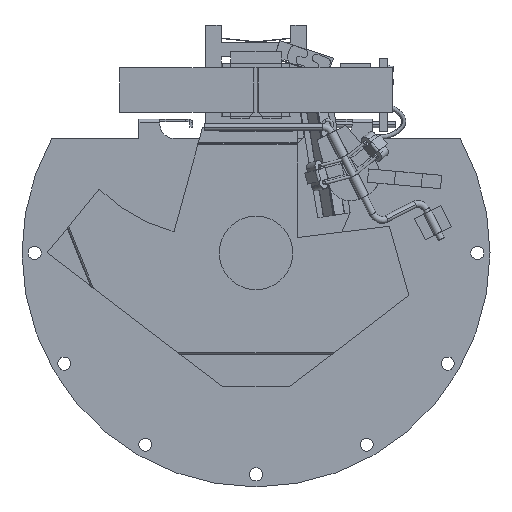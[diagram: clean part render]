
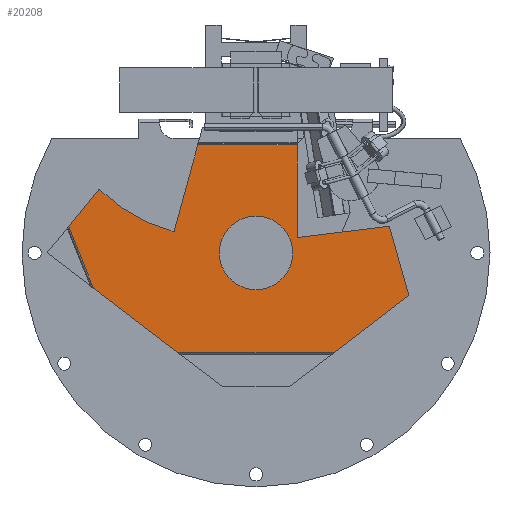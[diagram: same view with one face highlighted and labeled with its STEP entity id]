
A CAD part, top view. The second image highlights one B-rep face of the part: STEP entity #20208.
In plain terms, the highlighted planar face has unit normal (0, 0, 1).
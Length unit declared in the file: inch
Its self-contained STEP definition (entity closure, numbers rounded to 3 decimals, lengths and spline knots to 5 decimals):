
#4181 = CARTESIAN_POINT ( 'NONE',  ( 0.307, 0.808, 0.05 ) ) ;
#4970 = CARTESIAN_POINT ( 'NONE',  ( -0.275, 0., 0.05 ) ) ;
#5038 = CARTESIAN_POINT ( 'NONE',  ( 1.144, -0.3186, 0.05 ) ) ;
#5155 = LINE ( 'NONE', #5192, #5189 ) ;
#5160 = DIRECTION ( 'NONE',  ( 0., 1., 0. ) ) ;
#5161 = VECTOR ( 'NONE', #5160, 39.37008 ) ;
#5162 = CARTESIAN_POINT ( 'NONE',  ( 0.307, 1.396, 0.05 ) ) ;
#5163 = LINE ( 'NONE', #5162, #5161 ) ;
#5164 = CARTESIAN_POINT ( 'NONE',  ( 0.307, 0.115, 0.05 ) ) ;
#5165 = DIRECTION ( 'NONE',  ( -0.795, 0.606, 0. ) ) ;
#5166 = CIRCLE ( 'NONE', #5231, 0.275 ) ;
#5172 = VECTOR ( 'NONE', #5165, 39.37008 ) ;
#5173 = CARTESIAN_POINT ( 'NONE',  ( -1.562, 0., 0.05 ) ) ;
#5174 = LINE ( 'NONE', #5173, #5172 ) ;
#5179 = CARTESIAN_POINT ( 'NONE',  ( -1.21624, -0.26353, 0.05 ) ) ;
#5183 = CARTESIAN_POINT ( 'NONE',  ( 0., 0., 0.05 ) ) ;
#5186 = CARTESIAN_POINT ( 'NONE',  ( -0.58456, -0.745, 0.05 ) ) ;
#5189 = VECTOR ( 'NONE', #5191, 39.37008 ) ;
#5190 = DIRECTION ( 'NONE',  ( 0., 0., -1. ) ) ;
#5191 = DIRECTION ( 'NONE',  ( -0.795, -0.606, 0. ) ) ;
#5192 = CARTESIAN_POINT ( 'NONE',  ( 1.562, 0., 0.05 ) ) ;
#5193 = DIRECTION ( 'NONE',  ( -0.273, 0.962, 0. ) ) ;
#5194 = VECTOR ( 'NONE', #5193, 39.37008 ) ;
#5195 = CARTESIAN_POINT ( 'NONE',  ( 0.58784, 1.64241, 0.05 ) ) ;
#5196 = CARTESIAN_POINT ( 'NONE',  ( 0.58456, -0.745, 0.05 ) ) ;
#5200 = LINE ( 'NONE', #5195, #5194 ) ;
#5214 = FACE_OUTER_BOUND ( 'NONE', #20178, .T. ) ;
#5225 = DIRECTION ( 'NONE',  ( -1., 0., 0. ) ) ;
#5230 = FACE_BOUND ( 'NONE', #20301, .T. ) ;
#5231 = AXIS2_PLACEMENT_3D ( 'NONE', #5183, #5190, #5225 ) ;
#5232 = AXIS2_PLACEMENT_3D ( 'NONE', #5284, #5283, #5282 ) ;
#5237 = CARTESIAN_POINT ( 'NONE',  ( 0.275, 0., 0.05 ) ) ;
#5238 = CIRCLE ( 'NONE', #5232, 0.275 ) ;
#5245 = CARTESIAN_POINT ( 'NONE',  ( 0.997, 0.19972, 0.05 ) ) ;
#5247 = LINE ( 'NONE', #5254, #5256 ) ;
#5249 = DIRECTION ( 'NONE',  ( -1., 0., 0. ) ) ;
#5250 = DIRECTION ( 'NONE',  ( 0., 0., -1. ) ) ;
#5251 = CARTESIAN_POINT ( 'NONE',  ( -0.281, 1.396, 0.05 ) ) ;
#5252 = AXIS2_PLACEMENT_3D ( 'NONE', #5251, #5250, #5249 ) ;
#5253 = DIRECTION ( 'NONE',  ( -0.993, -0.122, 0. ) ) ;
#5254 = CARTESIAN_POINT ( 'NONE',  ( -0.11732, 0.0629, 0.05 ) ) ;
#5256 = VECTOR ( 'NONE', #5253, 39.37008 ) ;
#5258 = PLANE ( 'NONE',  #5252 ) ;
#5282 = DIRECTION ( 'NONE',  ( -1., 0., 0. ) ) ;
#5283 = DIRECTION ( 'NONE',  ( 0., 0., -1. ) ) ;
#5284 = CARTESIAN_POINT ( 'NONE',  ( 0., 0., 0.05 ) ) ;
#13634 = CARTESIAN_POINT ( 'NONE',  ( -1.17534, 0.47748, 0.05 ) ) ;
#13635 = LINE ( 'NONE', #13634, #13686 ) ;
#13646 = CARTESIAN_POINT ( 'NONE',  ( -0.613, 0.15774, 0.05 ) ) ;
#13647 = CARTESIAN_POINT ( 'NONE',  ( -0.43526, 0.808, 0.05 ) ) ;
#13677 = DIRECTION ( 'NONE',  ( 0.371, -0.929, 0. ) ) ;
#13678 = VECTOR ( 'NONE', #13677, 39.37008 ) ;
#13679 = CARTESIAN_POINT ( 'NONE',  ( -1.65941, 0.8449, 0.05 ) ) ;
#13680 = LINE ( 'NONE', #13679, #13678 ) ;
#13684 = CARTESIAN_POINT ( 'NONE',  ( -1.40106, 0.19874, 0.05 ) ) ;
#13685 = DIRECTION ( 'NONE',  ( 0.629, 0.777, 0. ) ) ;
#13686 = VECTOR ( 'NONE', #13685, 39.37008 ) ;
#19823 = VERTEX_POINT ( 'NONE', #4181 ) ;
#20017 = ORIENTED_EDGE ( 'NONE', *, *, #24918, .T. ) ;
#20091 = VERTEX_POINT ( 'NONE', #4970 ) ;
#20109 = VERTEX_POINT ( 'NONE', #5038 ) ;
#20168 = ORIENTED_EDGE ( 'NONE', *, *, #20171, .T. ) ;
#20170 = EDGE_CURVE ( 'NONE', #20194, #20173, #5174, .T. ) ;
#20171 = EDGE_CURVE ( 'NONE', #20180, #19823, #5163, .T. ) ;
#20173 = VERTEX_POINT ( 'NONE', #5179 ) ;
#20178 = EDGE_LOOP ( 'NONE', ( #20211, #20199, #20202, #20168, #20017, #24913, #24929, #24920, #24928, #24924, #24780 ) ) ;
#20180 = VERTEX_POINT ( 'NONE', #5164 ) ;
#20183 = EDGE_CURVE ( 'NONE', #20109, #20216, #5200, .T. ) ;
#20186 = EDGE_CURVE ( 'NONE', #20109, #20206, #5155, .T. ) ;
#20191 = EDGE_CURVE ( 'NONE', #20091, #20220, #5166, .T. ) ;
#20194 = VERTEX_POINT ( 'NONE', #5186 ) ;
#20199 = ORIENTED_EDGE ( 'NONE', *, *, #20183, .T. ) ;
#20202 = ORIENTED_EDGE ( 'NONE', *, *, #20214, .T. ) ;
#20206 = VERTEX_POINT ( 'NONE', #5196 ) ;
#20208 = ADVANCED_FACE ( 'NONE', ( #5230, #5214 ), #5258, .F. ) ;
#20211 = ORIENTED_EDGE ( 'NONE', *, *, #20186, .F. ) ;
#20213 = ORIENTED_EDGE ( 'NONE', *, *, #20222, .T. ) ;
#20214 = EDGE_CURVE ( 'NONE', #20216, #20180, #5247, .T. ) ;
#20216 = VERTEX_POINT ( 'NONE', #5245 ) ;
#20219 = ORIENTED_EDGE ( 'NONE', *, *, #20191, .T. ) ;
#20220 = VERTEX_POINT ( 'NONE', #5237 ) ;
#20222 = EDGE_CURVE ( 'NONE', #20220, #20091, #5238, .T. ) ;
#20301 = EDGE_LOOP ( 'NONE', ( #20213, #20219 ) ) ;
#24770 = VERTEX_POINT ( 'NONE', #13647 ) ;
#24772 = VERTEX_POINT ( 'NONE', #13646 ) ;
#24778 = EDGE_CURVE ( 'NONE', #24782, #24916, #13635, .T. ) ;
#24780 = ORIENTED_EDGE ( 'NONE', *, *, #24908, .T. ) ;
#24782 = VERTEX_POINT ( 'NONE', #13684 ) ;
#24784 = EDGE_CURVE ( 'NONE', #24782, #20173, #13680, .T. ) ;
#24908 = EDGE_CURVE ( 'NONE', #20194, #20206, #34280, .T. ) ;
#24913 = ORIENTED_EDGE ( 'NONE', *, *, #24914, .F. ) ;
#24914 = EDGE_CURVE ( 'NONE', #24772, #24770, #34312, .T. ) ;
#24916 = VERTEX_POINT ( 'NONE', #34304 ) ;
#24918 = EDGE_CURVE ( 'NONE', #19823, #24770, #34354, .T. ) ;
#24920 = ORIENTED_EDGE ( 'NONE', *, *, #24778, .F. ) ;
#24922 = EDGE_CURVE ( 'NONE', #24916, #24772, #34301, .T. ) ;
#24924 = ORIENTED_EDGE ( 'NONE', *, *, #20170, .F. ) ;
#24928 = ORIENTED_EDGE ( 'NONE', *, *, #24784, .T. ) ;
#24929 = ORIENTED_EDGE ( 'NONE', *, *, #24922, .F. ) ;
#34262 = DIRECTION ( 'NONE',  ( 0.264, 0.965, 0. ) ) ;
#34263 = CARTESIAN_POINT ( 'NONE',  ( -0.4, 0.937, 0.05 ) ) ;
#34276 = DIRECTION ( 'NONE',  ( 1., 0., 0. ) ) ;
#34277 = VECTOR ( 'NONE', #34276, 39.37008 ) ;
#34279 = CARTESIAN_POINT ( 'NONE',  ( -0.281, -0.745, 0.05 ) ) ;
#34280 = LINE ( 'NONE', #34279, #34277 ) ;
#34301 = CIRCLE ( 'NONE', #34313, 1.282 ) ;
#34304 = CARTESIAN_POINT ( 'NONE',  ( -1.17534, 0.47748, 0.05 ) ) ;
#34305 = VECTOR ( 'NONE', #34262, 39.37008 ) ;
#34306 = CARTESIAN_POINT ( 'NONE',  ( -0.281, 1.396, 0.05 ) ) ;
#34312 = LINE ( 'NONE', #34263, #34305 ) ;
#34313 = AXIS2_PLACEMENT_3D ( 'NONE', #34306, #34348, #34347 ) ;
#34347 = DIRECTION ( 'NONE',  ( -1., 0., 0. ) ) ;
#34348 = DIRECTION ( 'NONE',  ( 0., 0., 1. ) ) ;
#34351 = DIRECTION ( 'NONE',  ( -1., 0., 0. ) ) ;
#34352 = VECTOR ( 'NONE', #34351, 39.37008 ) ;
#34353 = CARTESIAN_POINT ( 'NONE',  ( -0.281, 0.808, 0.05 ) ) ;
#34354 = LINE ( 'NONE', #34353, #34352 ) ;
